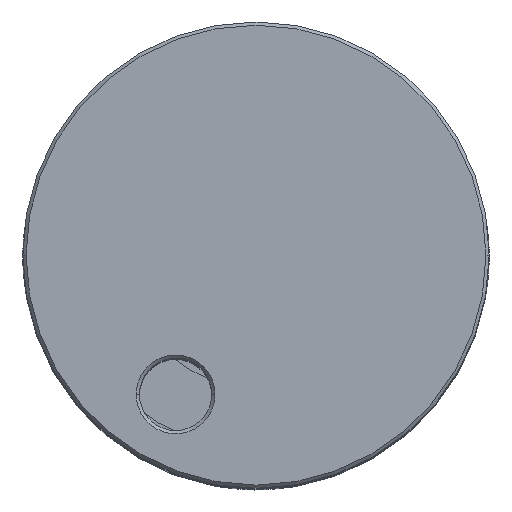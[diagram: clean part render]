
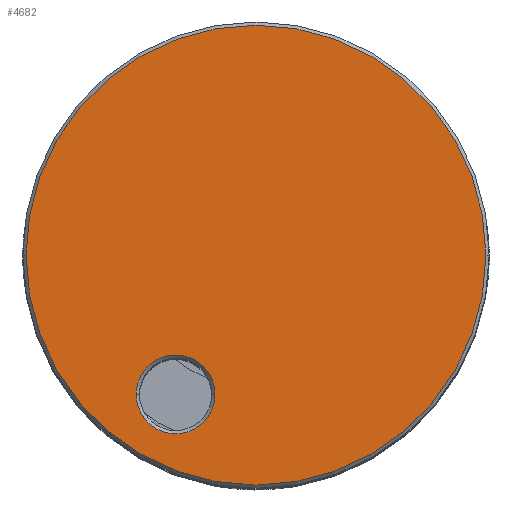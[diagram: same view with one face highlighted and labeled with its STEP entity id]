
A CAD part, top view. The second image highlights one B-rep face of the part: STEP entity #4682.
In plain terms, the highlighted planar face has unit normal (0, 0, 1).
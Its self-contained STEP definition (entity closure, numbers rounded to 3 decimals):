
#5 = CIRCLE ( 'NONE', #5811, 14.3 ) ;
#150 = EDGE_CURVE ( 'NONE', #3956, #4542, #2248, .T. ) ;
#172 = CIRCLE ( 'NONE', #4248, 2.45 ) ;
#366 = DIRECTION ( 'NONE',  ( 1., 0., 0. ) ) ;
#480 = CIRCLE ( 'NONE', #3770, 14.3 ) ;
#690 = VERTEX_POINT ( 'NONE', #5623 ) ;
#736 = VERTEX_POINT ( 'NONE', #3984 ) ;
#843 = EDGE_CURVE ( 'NONE', #690, #736, #5, .T. ) ;
#992 = CARTESIAN_POINT ( 'NONE',  ( -7.45, -8.66, 49. ) ) ;
#995 = AXIS2_PLACEMENT_3D ( 'NONE', #5610, #1948, #2882 ) ;
#1071 = ORIENTED_EDGE ( 'NONE', *, *, #150, .T. ) ;
#1286 = CARTESIAN_POINT ( 'NONE',  ( 0., 0., 49. ) ) ;
#1398 = EDGE_LOOP ( 'NONE', ( #2361, #5568 ) ) ;
#1452 = CARTESIAN_POINT ( 'NONE',  ( -5., -8.66, 49. ) ) ;
#1670 = DIRECTION ( 'NONE',  ( 1., 0., 0. ) ) ;
#1791 = DIRECTION ( 'NONE',  ( 0., 0., 1. ) ) ;
#1948 = DIRECTION ( 'NONE',  ( 0., 0., -1. ) ) ;
#2158 = DIRECTION ( 'NONE',  ( 0., 0., 1. ) ) ;
#2248 = CIRCLE ( 'NONE', #995, 2.45 ) ;
#2361 = ORIENTED_EDGE ( 'NONE', *, *, #843, .T. ) ;
#2469 = DIRECTION ( 'NONE',  ( 0., 0., -1. ) ) ;
#2881 = ORIENTED_EDGE ( 'NONE', *, *, #3656, .T. ) ;
#2882 = DIRECTION ( 'NONE',  ( 1., 0., 0. ) ) ;
#3116 = CARTESIAN_POINT ( 'NONE',  ( -2.55, -8.66, 49. ) ) ;
#3345 = FACE_OUTER_BOUND ( 'NONE', #1398, .T. ) ;
#3493 = EDGE_CURVE ( 'NONE', #736, #690, #480, .T. ) ;
#3656 = EDGE_CURVE ( 'NONE', #4542, #3956, #172, .T. ) ;
#3725 = DIRECTION ( 'NONE',  ( 1., 0., 0. ) ) ;
#3770 = AXIS2_PLACEMENT_3D ( 'NONE', #4323, #2158, #1670 ) ;
#3956 = VERTEX_POINT ( 'NONE', #3116 ) ;
#3984 = CARTESIAN_POINT ( 'NONE',  ( 14.3, 0., 49. ) ) ;
#4044 = CARTESIAN_POINT ( 'NONE',  ( 0., 0., 49. ) ) ;
#4248 = AXIS2_PLACEMENT_3D ( 'NONE', #1452, #2469, #5612 ) ;
#4300 = AXIS2_PLACEMENT_3D ( 'NONE', #1286, #4480, #366 ) ;
#4323 = CARTESIAN_POINT ( 'NONE',  ( 0., 0., 49. ) ) ;
#4480 = DIRECTION ( 'NONE',  ( 0., 0., 1. ) ) ;
#4542 = VERTEX_POINT ( 'NONE', #992 ) ;
#4682 = ADVANCED_FACE ( 'NONE', ( #5629, #3345 ), #4730, .T. ) ;
#4730 = PLANE ( 'NONE',  #4300 ) ;
#5551 = EDGE_LOOP ( 'NONE', ( #1071, #2881 ) ) ;
#5568 = ORIENTED_EDGE ( 'NONE', *, *, #3493, .T. ) ;
#5610 = CARTESIAN_POINT ( 'NONE',  ( -5., -8.66, 49. ) ) ;
#5612 = DIRECTION ( 'NONE',  ( 1., 0., 0. ) ) ;
#5623 = CARTESIAN_POINT ( 'NONE',  ( -14.3, 0., 49. ) ) ;
#5629 = FACE_BOUND ( 'NONE', #5551, .T. ) ;
#5811 = AXIS2_PLACEMENT_3D ( 'NONE', #4044, #1791, #3725 ) ;
